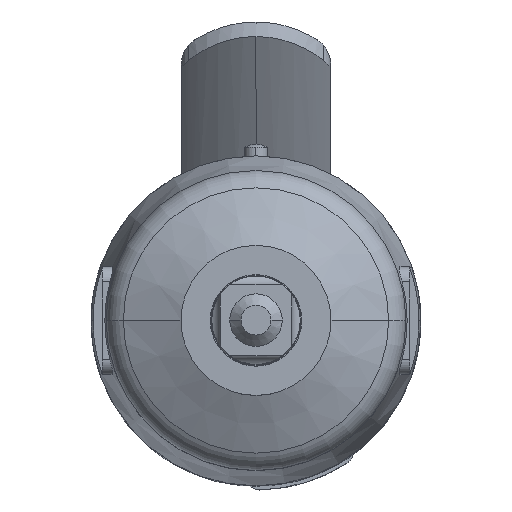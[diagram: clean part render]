
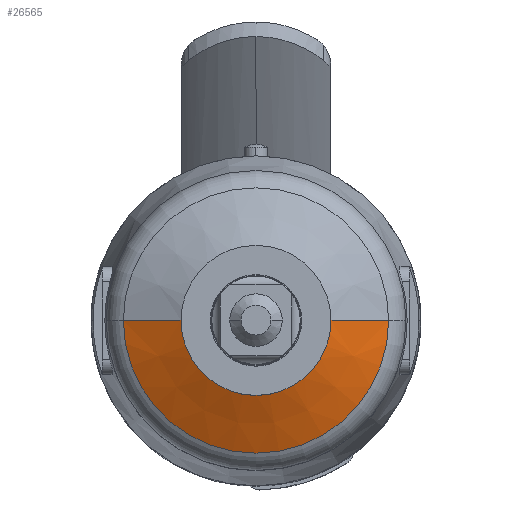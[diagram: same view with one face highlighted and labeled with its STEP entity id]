
A CAD part, top view. The second image highlights one B-rep face of the part: STEP entity #26565.
In plain terms, the highlighted conical face has half-angle 65 degrees and reference radius 20 mm.
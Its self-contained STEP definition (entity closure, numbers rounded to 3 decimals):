
#7409 = CARTESIAN_POINT ( 'NONE',  ( 17.69, 0., -5.586 ) ) ;
#7494 = CARTESIAN_POINT ( 'NONE',  ( 10., 0., -2. ) ) ;
#7535 = CARTESIAN_POINT ( 'NONE',  ( -17.69, 0., -5.586 ) ) ;
#7606 = DIRECTION ( 'NONE',  ( 0.906, 0., -0.423 ) ) ;
#7607 = VECTOR ( 'NONE', #7606, 1000. ) ;
#7608 = CARTESIAN_POINT ( 'NONE',  ( 20., 0., -6.663 ) ) ;
#7609 = LINE ( 'NONE', #7608, #7607 ) ;
#7625 = DIRECTION ( 'NONE',  ( -0.906, 0., -0.423 ) ) ;
#7626 = VECTOR ( 'NONE', #7625, 1000. ) ;
#7627 = CARTESIAN_POINT ( 'NONE',  ( -20., 0., -6.663 ) ) ;
#7628 = LINE ( 'NONE', #7627, #7626 ) ;
#7629 = CARTESIAN_POINT ( 'NONE',  ( -10., 0., -2. ) ) ;
#7820 = DIRECTION ( 'NONE',  ( 1., 0., 0. ) ) ;
#7821 = DIRECTION ( 'NONE',  ( 0., 0., 1. ) ) ;
#7822 = CARTESIAN_POINT ( 'NONE',  ( 0., 0., -2. ) ) ;
#7823 = AXIS2_PLACEMENT_3D ( 'NONE', #7822, #7821, #7820 ) ;
#7828 = CIRCLE ( 'NONE', #7823, 10. ) ;
#7831 = DIRECTION ( 'NONE',  ( 1., 0., 0. ) ) ;
#7832 = DIRECTION ( 'NONE',  ( 0., 0., 1. ) ) ;
#7833 = CARTESIAN_POINT ( 'NONE',  ( 0., 0., -5.586 ) ) ;
#7834 = AXIS2_PLACEMENT_3D ( 'NONE', #7833, #7832, #7831 ) ;
#7835 = CIRCLE ( 'NONE', #7834, 17.69 ) ;
#7918 = DIRECTION ( 'NONE',  ( -1., 0., 0. ) ) ;
#7919 = DIRECTION ( 'NONE',  ( 0., 0., -1. ) ) ;
#7920 = CARTESIAN_POINT ( 'NONE',  ( 0., 0., -6.663 ) ) ;
#7921 = AXIS2_PLACEMENT_3D ( 'NONE', #7920, #7919, #7918 ) ;
#7923 = CONICAL_SURFACE ( 'NONE', #7921, 20., 1.134 ) ;
#7924 = FACE_OUTER_BOUND ( 'NONE', #26554, .T. ) ;
#26319 = VERTEX_POINT ( 'NONE', #7409 ) ;
#26379 = VERTEX_POINT ( 'NONE', #7494 ) ;
#26389 = VERTEX_POINT ( 'NONE', #7535 ) ;
#26414 = EDGE_CURVE ( 'NONE', #26379, #26319, #7609, .T. ) ;
#26437 = VERTEX_POINT ( 'NONE', #7629 ) ;
#26438 = EDGE_CURVE ( 'NONE', #26437, #26389, #7628, .T. ) ;
#26503 = ORIENTED_EDGE ( 'NONE', *, *, #26414, .F. ) ;
#26504 = ORIENTED_EDGE ( 'NONE', *, *, #26512, .F. ) ;
#26505 = ORIENTED_EDGE ( 'NONE', *, *, #26438, .T. ) ;
#26506 = ORIENTED_EDGE ( 'NONE', *, *, #26507, .T. ) ;
#26507 = EDGE_CURVE ( 'NONE', #26389, #26319, #7835, .T. ) ;
#26512 = EDGE_CURVE ( 'NONE', #26437, #26379, #7828, .T. ) ;
#26554 = EDGE_LOOP ( 'NONE', ( #26503, #26504, #26505, #26506 ) ) ;
#26565 = ADVANCED_FACE ( 'NONE', ( #7924 ), #7923, .T. ) ;
